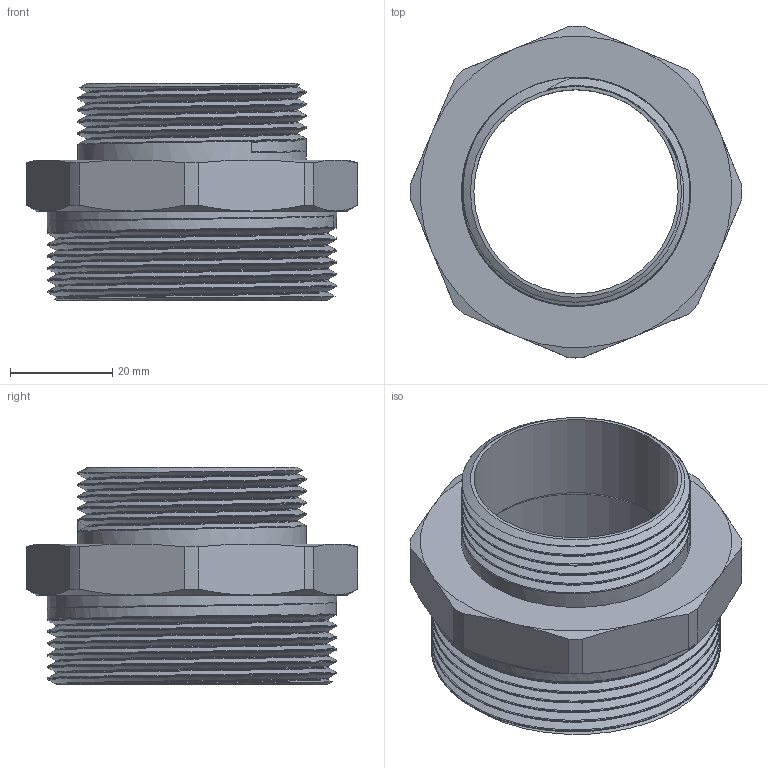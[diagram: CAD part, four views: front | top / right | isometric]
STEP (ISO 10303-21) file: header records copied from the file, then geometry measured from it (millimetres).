
FILE_DESCRIPTION(/* description */ (''),/* implementation_level */ '2;1');
FILE_NAME(/* name */ 'C:\Users\Doom\Desktop\Фадотех\Резьба\N24 17.03.2020\N24 17.03.2020.stp',/* time_stamp */ '2022-01-08T17:17:12+02:00',/* author */ ('Doom'),/* organization */ (''),/* preprocessor_version */ 'ST-DEVELOPER v18',/* originating_system */ 'Autodesk Inventor 2020',/* authorisation */ '');
FILE_SCHEMA (('AUTOMOTIVE_DESIGN { 1 0 10303 214 3 1 1 }'));
Length unit declared in the file: millimetre
Products named in the file (1): N24 17.03.2020
Bounding box: 65 x 65 x 42.5 mm (x, y, z)
Volume: 23206.4 mm3; surface area: 20726.9 mm2
Topology: 1 solids, 1 shells, 64 faces, 178 edges, 119 vertices
Faces by surface type: cylinder 25, plane 15, cone 12, bspline 12
Full cylindrical faces by diameter (mm): 40 x1, 44.84 x5, 50.5 x1, 56.65 x6
Entity records: 8491 total; most frequent: CARTESIAN_POINT 6959, ORIENTED_EDGE 356, DIRECTION 259, EDGE_CURVE 178, VERTEX_POINT 119, AXIS2_PLACEMENT_3D 104, EDGE_LOOP 69, ADVANCED_FACE 64
